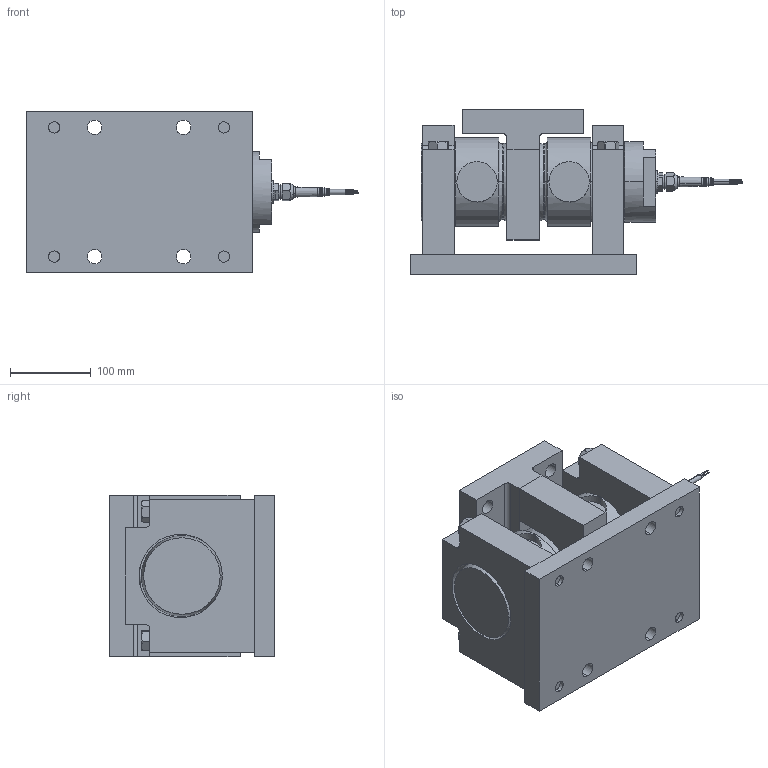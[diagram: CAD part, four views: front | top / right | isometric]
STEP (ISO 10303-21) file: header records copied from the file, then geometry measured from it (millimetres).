
FILE_DESCRIPTION (( 'STEP AP214' ), '1' );
FILE_NAME ('KIMD-1 500-800 kN Module.STEP', '2021-04-20T14:36:10', ( '' ), ( '' ), 'SwSTEP 2.0', 'SolidWorks 2021', '' );
FILE_SCHEMA (( 'AUTOMOTIVE_DESIGN' ));
Length unit declared in the file: millimetre
Products named in the file (15): KIMD-1 500-800 kN; 5202715r0; socket set screw dog point_iso_ISO 4028 - M20 x 30-N; 500127r0; 3064189r7; Pur KIMD-1; M26x1.5 - Pg9 - 6369829; 300061r0_No Bolts; Standardkabel 4-Cond PVC; Pg9 - 1009.52 6_2_14; KIMD-1 500-800 kN Module; 4097872r0; 400192r0; Wiberger-din933_m16x150; socket head cap screw_iso_ISO 4762 M20 x 60 - 60N
Assembly tree (22 placements, depth 3):
  KIMD-1 500-800 kN Module
    300061r0_No Bolts
      5202715r0
      4097872r0  x2
      Wiberger-din933_m16x150  x4
      400192r0
      500127r0
      socket head cap screw_iso_ISO 4762 M20 x 60 - 60N  x2
      socket set screw dog point_iso_ISO 4028 - M20 x 30-N
    KIMD-1 500-800 kN
      3064189r7
      Pur KIMD-1  x4
      M26x1.5 - Pg9 - 6369829
      Pg9 - 1009.52 6_2_14
      Standardkabel 4-Cond PVC
Bounding box: 411 x 205 x 200 mm (x, y, z)
Volume: 6814426.2 mm3; surface area: 719825.7 mm2
Topology: 20 solids, 23 shells, 558 faces, 1326 edges, 827 vertices
Faces by surface type: cylinder 208, plane 191, cone 93, torus 38, bspline 16, sphere 12
Entity records: 18711 total; most frequent: CARTESIAN_POINT 7242, DIRECTION 2206, ORIENTED_EDGE 2004, EDGE_CURVE 1002, AXIS2_PLACEMENT_3D 914, VERTEX_POINT 638, EDGE_LOOP 500, CIRCLE 479
